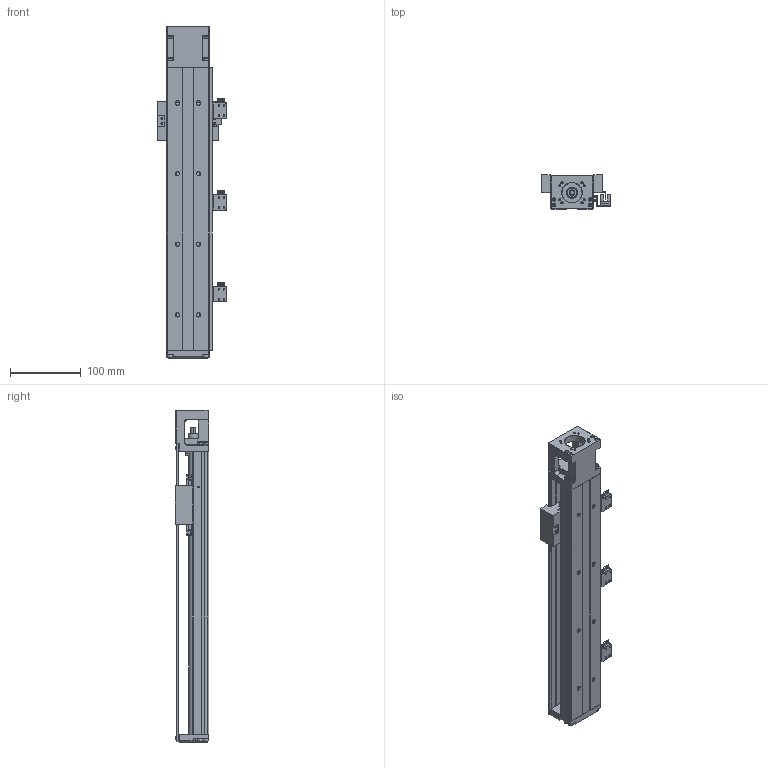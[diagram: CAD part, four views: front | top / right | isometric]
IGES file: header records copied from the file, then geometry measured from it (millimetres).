
Start section: SolidWorks IGES file using analytic representation for surfaces
Global section: file name: C:\Users\Administrator\Desktop\600L\ﾓﾐｻｬﾌｨ\GSX60C-MF-400L-ﾓﾐｻｬﾌｨ.IGS; native system: SolidWorks 2013; preprocessor: SolidWorks 2013; author: ｹｾﾇｿ,; organization: 11; date: 170411.091209; units: millimetre
Bounding box: 97.3 x 48 x 470 mm (x, y, z)
Surface area: 257360.3 mm2 (no closed solid volume)
Topology: 0 solids, 0 shells, 1750 faces, 20379 edges, 20238 vertices
Faces by surface type: bspline 1026, revolution 724
